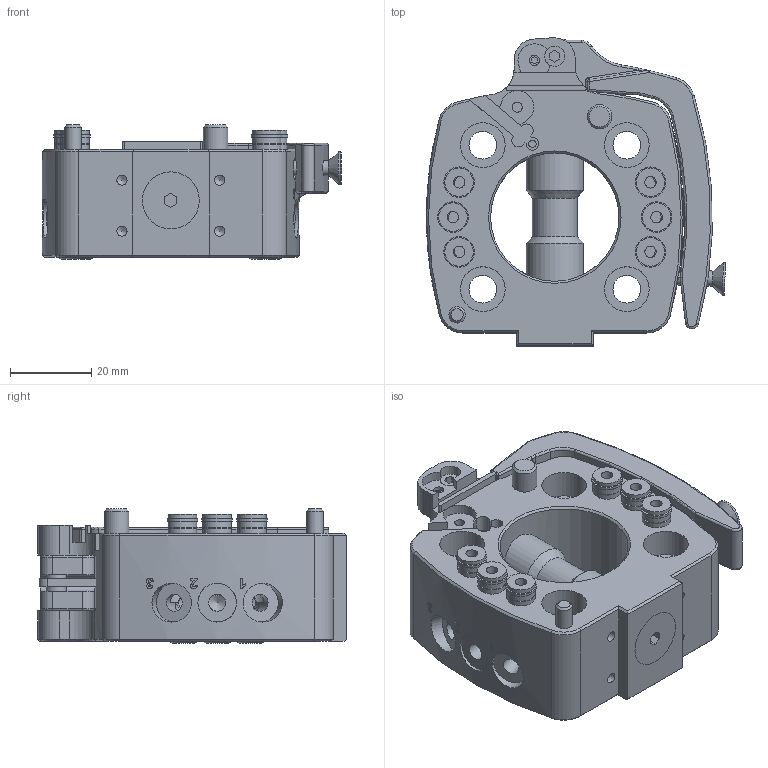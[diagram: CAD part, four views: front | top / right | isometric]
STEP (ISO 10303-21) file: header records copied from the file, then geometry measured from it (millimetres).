
FILE_DESCRIPTION (( 'STEP AP214' ), '1' );
FILE_NAME ('8352.STEP', '2024-07-18T18:12:55', ( '' ), ( '' ), 'SwSTEP 2.0', 'SolidWorks 2022', '' );
FILE_SCHEMA (( 'AUTOMOTIVE_DESIGN' ));
Length unit declared in the file: millimetre
Products named in the file (1): 8352
Bounding box: 73.41 x 75.62 x 32.9 mm (x, y, z)
Volume: 79786.5 mm3; surface area: 37079 mm2
Topology: 32 solids, 32 shells, 598 faces, 1371 edges, 871 vertices
Faces by surface type: plane 273, cylinder 191, bspline 58, cone 47, torus 27, sphere 2
Full cylindrical faces by diameter (mm): 1.8 x1, 2.459 x1, 2.5 x6, 2.85 x6, 3.75 x2, 4 x4, 4.2 x18, 5 x10, 5.1 x6, 6 x2, 6.8 x4, 7 x30, 7.5 x6, 8 x1, 9.5 x6, 10 x1, 11 x6, 14 x5, 31.5 x1
Entity records: 21337 total; most frequent: CARTESIAN_POINT 6408, DIRECTION 2508, ORIENTED_EDGE 2370, EDGE_CURVE 1185, AXIS2_PLACEMENT_3D 981, EDGE_LOOP 852, VERTEX_POINT 833, FACE_OUTER_BOUND 708
